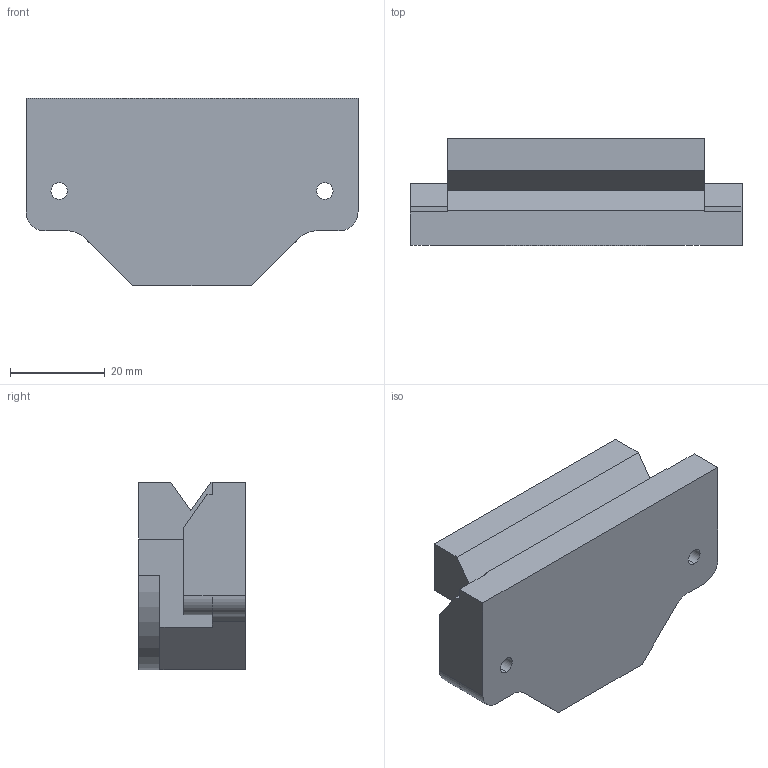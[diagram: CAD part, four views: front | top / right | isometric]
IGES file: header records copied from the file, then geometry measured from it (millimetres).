
Start section: 3D InterOp IGES (v. 2019 1.0.2), Spatial Corp. Copyright (c) 1999-2017.
Global section: file name: SS CS 34.igs; native system: Spatial Corp.; preprocessor: 3D InterOp GENERIC/IGES 3.0; author: Noname; organization: Noname; date: 20220628.115130; units: millimetre
Bounding box: 70 x 22.5 x 39.6 mm (x, y, z)
Surface area: 9530.5 mm2 (no closed solid volume)
Topology: 0 solids, 0 shells, 43 faces, 246 edges, 246 vertices
Faces by surface type: extrusion 31, revolution 12
